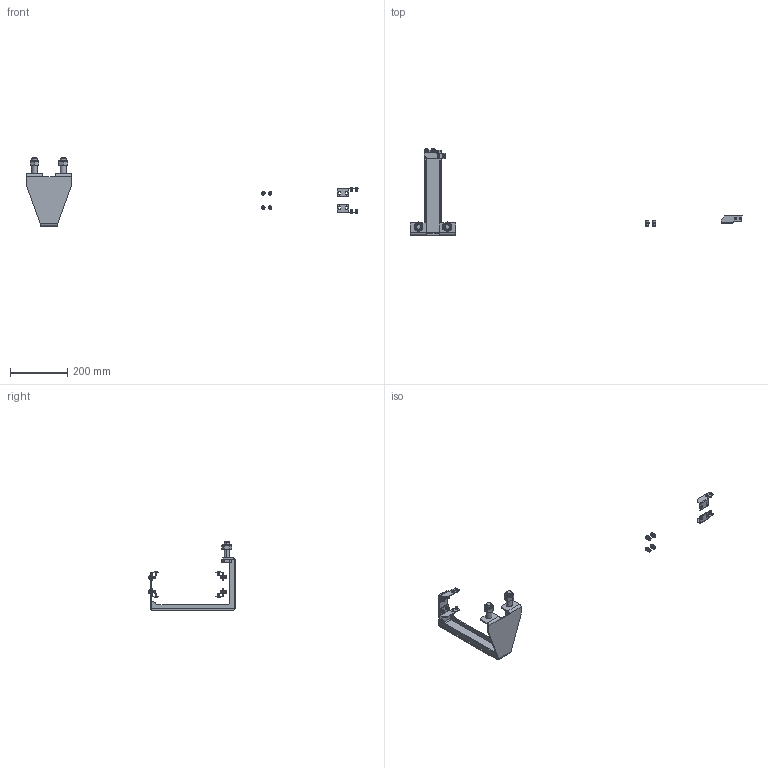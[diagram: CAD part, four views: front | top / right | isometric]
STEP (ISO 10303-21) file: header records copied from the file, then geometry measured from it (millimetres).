
FILE_DESCRIPTION (( 'STEP AP203' ), '1' );
FILE_NAME ('900.060.100.100.STEP', '2018-03-09T12:57:05', ( '' ), ( '' ), 'SwSTEP 2.0', 'SolidWorks 2016', '' );
FILE_SCHEMA (( 'CONFIG_CONTROL_DESIGN' ));
Length unit declared in the file: millimetre
Products named in the file (13): 084.301.000 VITI ALUSIC_084.301.001; 900.060.100.103_Default<A macchina>; DADI ESAGONALI AUTOBLOCCANTI UNI 7473_M6 UNI 7473; SR435-4000-005; SR435-4000-004; RONDELLE UNI 6592_6.4x12.5 UNI 6592; 084.301.000 VITI ALUSIC_084.301.011; VITI TE UNI 5739_M20X60 UNI 5739; 900.060.100.100; SR435-4000-002; DADO ESAGONALE M20 AUTOBLOCCANTE_M20 UNI7473; SR435MI060100-A435M060K1-2000; SR435-4000-003
Assembly tree (42 placements, depth 3):
  900.060.100.100
    SR435MI060100-A435M060K1-2000
      SR435-4000-002
      SR435-4000-003
      SR435-4000-004
      SR435-4000-005
    900.060.100.103_Default<A macchina>
    RONDELLE UNI 6592_6.4x12.5 UNI 6592  x16
    084.301.000 VITI ALUSIC_084.301.011  x4
    084.301.000 VITI ALUSIC_084.301.001  x4
    DADI ESAGONALI AUTOBLOCCANTI UNI 7473_M6 UNI 7473  x8
    VITI TE UNI 5739_M20X60 UNI 5739  x2
    DADO ESAGONALE M20 AUTOBLOCCANTE_M20 UNI7473  x2
Bounding box: 1157 x 301.1 x 238 mm (x, y, z)
Volume: 359648.1 mm3; surface area: 198641.6 mm2
Topology: 43 solids, 43 shells, 838 faces, 1896 edges, 1182 vertices
Faces by surface type: plane 354, cylinder 280, cone 156, torus 36, sphere 10, bspline 2
Entity records: 14405 total; most frequent: CARTESIAN_POINT 2293, DIRECTION 2220, ORIENTED_EDGE 1954, EDGE_CURVE 977, AXIS2_PLACEMENT_3D 854, VERTEX_POINT 623, VECTOR 512, LINE 512
